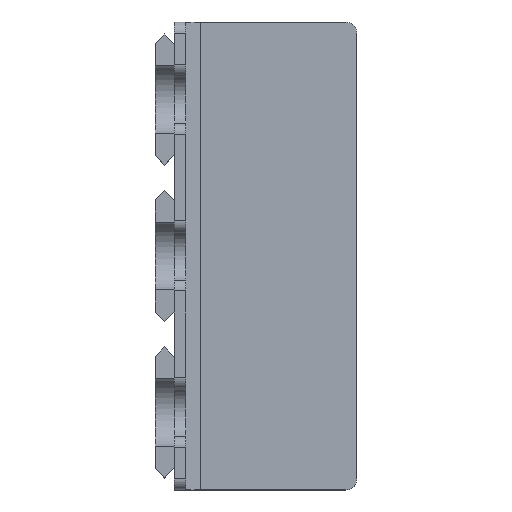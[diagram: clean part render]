
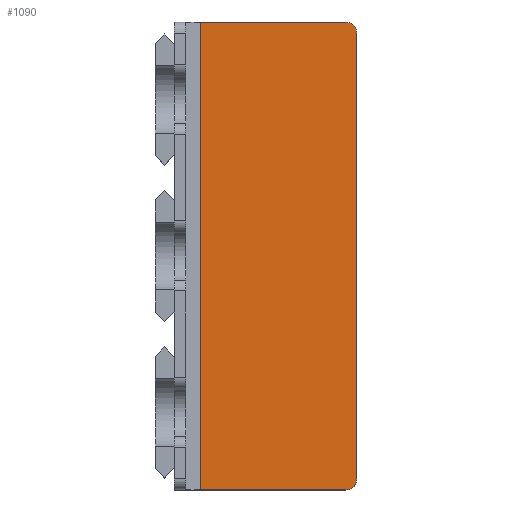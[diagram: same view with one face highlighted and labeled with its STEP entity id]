
A CAD part, top view. The second image highlights one B-rep face of the part: STEP entity #1090.
In plain terms, the highlighted planar face has unit normal (0, 0, 1).
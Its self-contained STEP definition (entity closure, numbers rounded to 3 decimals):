
#19=PLANE('',#1167);
#65=FACE_OUTER_BOUND('',#126,.T.);
#126=EDGE_LOOP('',(#756,#757,#758,#759,#760,#761));
#190=LINE('',#1586,#320);
#193=LINE('',#1592,#323);
#194=LINE('',#1594,#324);
#195=LINE('',#1596,#325);
#320=VECTOR('',#1268,10.);
#323=VECTOR('',#1273,10.);
#324=VECTOR('',#1274,10.);
#325=VECTOR('',#1275,10.);
#448=CIRCLE('',#1164,3.);
#450=CIRCLE('',#1168,3.);
#480=VERTEX_POINT('',#1576);
#481=VERTEX_POINT('',#1577);
#484=VERTEX_POINT('',#1585);
#486=VERTEX_POINT('',#1591);
#487=VERTEX_POINT('',#1593);
#488=VERTEX_POINT('',#1595);
#586=EDGE_CURVE('',#480,#481,#448,.T.);
#590=EDGE_CURVE('',#481,#484,#190,.T.);
#593=EDGE_CURVE('',#480,#486,#193,.T.);
#594=EDGE_CURVE('',#487,#486,#194,.T.);
#595=EDGE_CURVE('',#488,#487,#195,.T.);
#596=EDGE_CURVE('',#484,#488,#450,.T.);
#756=ORIENTED_EDGE('',*,*,#586,.F.);
#757=ORIENTED_EDGE('',*,*,#593,.T.);
#758=ORIENTED_EDGE('',*,*,#594,.F.);
#759=ORIENTED_EDGE('',*,*,#595,.F.);
#760=ORIENTED_EDGE('',*,*,#596,.F.);
#761=ORIENTED_EDGE('',*,*,#590,.F.);
#1090=ADVANCED_FACE('',(#65),#19,.F.);
#1164=AXIS2_PLACEMENT_3D('',#1578,#1260,#1261);
#1167=AXIS2_PLACEMENT_3D('',#1590,#1271,#1272);
#1168=AXIS2_PLACEMENT_3D('',#1597,#1276,#1277);
#1260=DIRECTION('center_axis',(0.,0.,-1.));
#1261=DIRECTION('ref_axis',(0.707,0.707,0.));
#1268=DIRECTION('',(0.,-1.,0.));
#1271=DIRECTION('center_axis',(0.,0.,-1.));
#1272=DIRECTION('ref_axis',(1.,0.,0.));
#1273=DIRECTION('',(-1.,0.,0.));
#1274=DIRECTION('',(0.,1.,0.));
#1275=DIRECTION('',(-1.,0.,0.));
#1276=DIRECTION('center_axis',(0.,0.,-1.));
#1277=DIRECTION('ref_axis',(0.707,-0.707,0.));
#1576=CARTESIAN_POINT('',(142.15,104.8,-138.15));
#1577=CARTESIAN_POINT('',(145.15,101.8,-138.15));
#1578=CARTESIAN_POINT('Origin',(142.15,101.8,-138.15));
#1585=CARTESIAN_POINT('',(145.15,-17.8,-138.15));
#1586=CARTESIAN_POINT('',(145.15,42.,-138.15));
#1590=CARTESIAN_POINT('Origin',(122.15,42.,-138.15));
#1591=CARTESIAN_POINT('',(103.15,104.8,-138.15));
#1592=CARTESIAN_POINT('',(122.15,104.8,-138.15));
#1593=CARTESIAN_POINT('',(103.15,-20.8,-138.15));
#1594=CARTESIAN_POINT('',(103.15,21.,-138.15));
#1595=CARTESIAN_POINT('',(142.15,-20.8,-138.15));
#1596=CARTESIAN_POINT('',(122.15,-20.8,-138.15));
#1597=CARTESIAN_POINT('Origin',(142.15,-17.8,-138.15));
